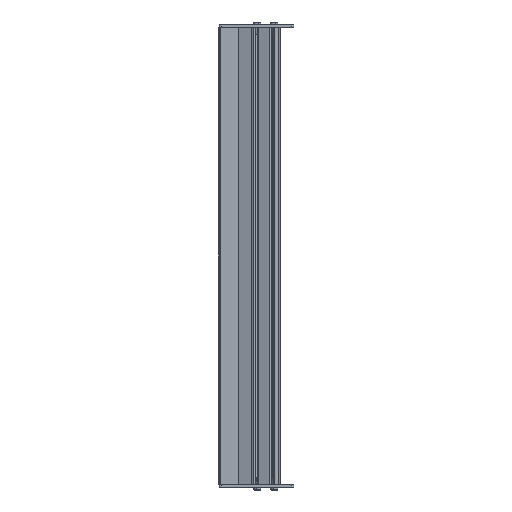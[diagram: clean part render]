
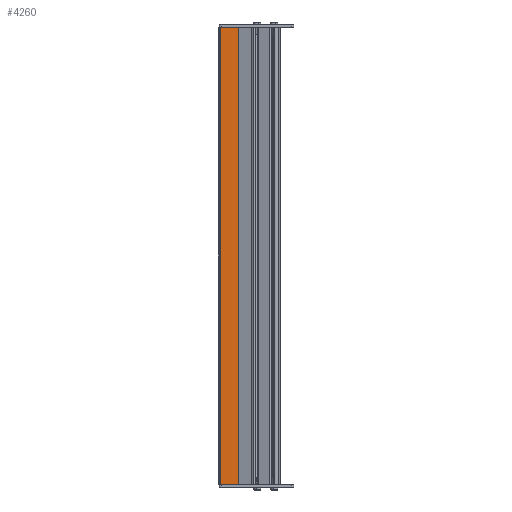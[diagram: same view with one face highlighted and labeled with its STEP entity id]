
A CAD part, left-side view. The second image highlights one B-rep face of the part: STEP entity #4260.
In plain terms, the highlighted planar face has unit normal (-1, 0, 0) as drawn and (1, 0, 0) by its records, which use the part's own axes.
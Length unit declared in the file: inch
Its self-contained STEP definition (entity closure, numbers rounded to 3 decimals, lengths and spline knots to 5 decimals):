
#3472=DIRECTION('',(0.,0.,1.));
#3473=VECTOR('',#3472,22.236);
#3474=CARTESIAN_POINT('',(0.048,0.01693,-11.118));
#3475=LINE('',#3474,#3473);
#3502=DIRECTION('',(0.,-1.,0.));
#3503=VECTOR('',#3502,0.88707);
#3504=CARTESIAN_POINT('',(0.048,0.904,-11.118));
#3505=LINE('',#3504,#3503);
#3506=DIRECTION('',(0.,-1.,0.));
#3507=VECTOR('',#3506,0.88707);
#3508=CARTESIAN_POINT('',(0.048,0.904,11.118));
#3509=LINE('',#3508,#3507);
#3510=DIRECTION('',(0.,0.,-1.));
#3511=VECTOR('',#3510,22.236);
#3512=CARTESIAN_POINT('',(0.048,0.904,11.118));
#3513=LINE('',#3512,#3511);
#3808=CARTESIAN_POINT('',(0.048,0.01693,11.118));
#3809=VERTEX_POINT('',#3808);
#3824=CARTESIAN_POINT('',(0.048,0.904,11.118));
#3825=VERTEX_POINT('',#3824);
#3882=CARTESIAN_POINT('',(0.048,0.904,-11.118));
#3883=VERTEX_POINT('',#3882);
#3888=CARTESIAN_POINT('',(0.048,0.01693,-11.118));
#3889=VERTEX_POINT('',#3888);
#4248=CARTESIAN_POINT('',(0.048,0.,11.118));
#4249=DIRECTION('',(-1.,0.,0.));
#4250=DIRECTION('',(0.,0.,1.));
#4251=AXIS2_PLACEMENT_3D('',#4248,#4249,#4250);
#4252=PLANE('',#4251);
#4253=ORIENTED_EDGE('',*,*,#4241,.T.);
#4254=ORIENTED_EDGE('',*,*,#4184,.T.);
#4255=ORIENTED_EDGE('',*,*,#4213,.F.);
#4257=ORIENTED_EDGE('',*,*,#4256,.T.);
#4258=EDGE_LOOP('',(#4253,#4254,#4255,#4257));
#4259=FACE_OUTER_BOUND('',#4258,.F.);
#4184=EDGE_CURVE('',#3889,#3809,#3475,.T.);
#4213=EDGE_CURVE('',#3825,#3809,#3509,.T.);
#4241=EDGE_CURVE('',#3883,#3889,#3505,.T.);
#4256=EDGE_CURVE('',#3825,#3883,#3513,.T.);
#4260=ADVANCED_FACE('',(#4259),#4252,.F.);
